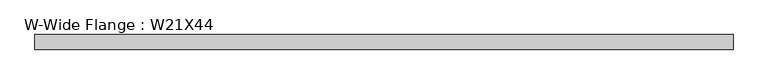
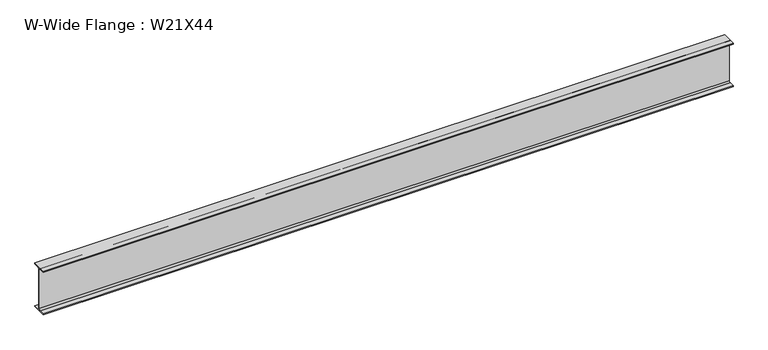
"""IFC4 building model written with IfcOpenShell, lengths in millimetres: beam geometry, W-Wide Flange : W21X44."""

from ifc_helpers import new_model, si_unit, point, frame, frame_2d, origin, place, context, project, spatial, polyline, circle_curve, trimmed, segment, composite_curve, outline, extrude, source, transform, mapped, element, save


def w_wide_flange_w21x44_aeefe74e(model_context):
    return source(origin(), model_context, "Body", "SweptSolid", [
        extrude(outline(composite_curve([segment(polyline([(82.55, -251.46), (82.55, -262.89), (-82.55, -262.89), (-82.55, -251.46), (-21.59, -251.46)]), True, "CONTINUOUS"), segment(trimmed(circle_curve(frame_2d((-21.59, -234.315)), 17.145), [point((-21.59, -251.46))], [point((-4.445, -234.315))], True, "CARTESIAN"), True, "CONTINUOUS"), segment(polyline([(-4.445, -234.315), (-4.445, 234.315)]), True, "CONTINUOUS"), segment(trimmed(circle_curve(frame_2d((-21.59, 234.315)), 17.145), [point((-4.445, 234.315))], [point((-21.59, 251.46))], True, "CARTESIAN"), True, "CONTINUOUS"), segment(polyline([(-21.59, 251.46), (-82.55, 251.46), (-82.55, 262.89), (82.55, 262.89), (82.55, 251.46), (21.59, 251.46)]), True, "CONTINUOUS"), segment(trimmed(circle_curve(frame_2d((21.59, 234.315)), 17.145), [point((21.59, 251.46))], [point((4.445, 234.315))], True, "CARTESIAN"), True, "CONTINUOUS"), segment(polyline([(4.445, 234.315), (4.445, -234.315)]), True, "CONTINUOUS"), segment(trimmed(circle_curve(frame_2d((21.59, -234.315)), 17.145), [point((4.445, -234.315))], [point((21.59, -251.46))], True, "CARTESIAN"), True, "CONTINUOUS"), segment(polyline([(21.59, -251.46), (82.55, -251.46)]), True, "CONTINUOUS")], self_intersect=False)), frame((-3903.7559594, 0.0, 0.0), z_axis=(1.0, 0.0, 0.0), x_axis=(0.0, 1.0, 0.0)), (0.0, 0.0, 1.0), 7868.0918251),
    ])


if __name__ == "__main__":
    model = new_model("IFC4")
    model_context = context("Model", 3, world=origin())
    ifc_project = project(units=[si_unit("LENGTHUNIT", "METRE", prefix="MILLI")], contexts=[model_context])
    site = spatial("IfcSite", under=ifc_project)
    building = spatial("IfcBuilding", under=site)
    placement = place(None, origin())
    w_wide_flange_w21x44_shape = w_wide_flange_w21x44_aeefe74e(model_context)
    element("IfcBeam", 1, ObjectType="W-Wide Flange : W21X44", at=placement, inside=building, context=model_context, shape_type="MappedRepresentation", body=[
        mapped(w_wide_flange_w21x44_shape, transform((0.0, 0.0, 0.0), x_axis=(1.0, 0.0, 0.0), y_axis=(0.0, 1.0, 0.0), z_axis=(0.0, 0.0, 1.0))),
    ])
    save(model, "model.ifc")
